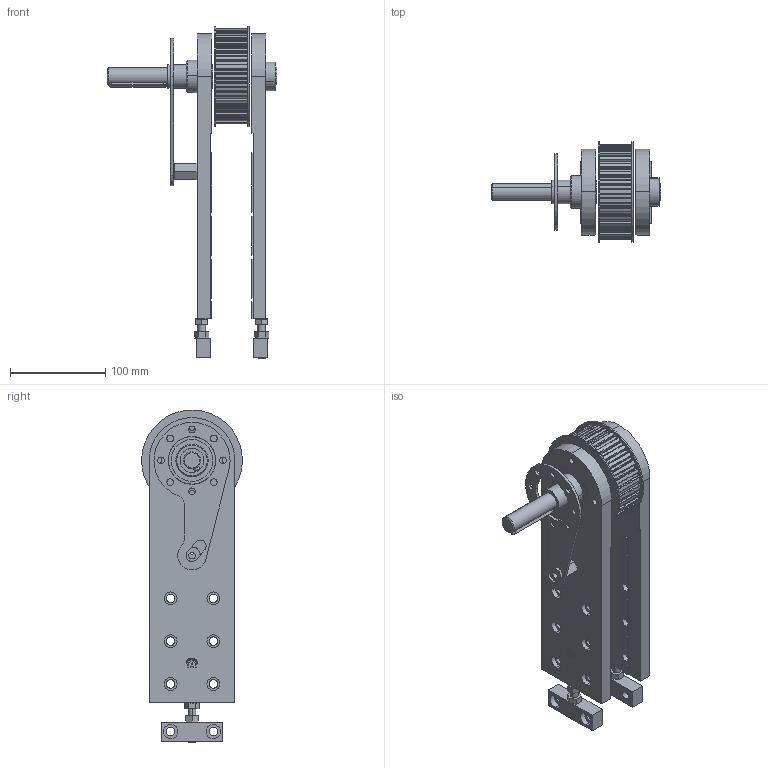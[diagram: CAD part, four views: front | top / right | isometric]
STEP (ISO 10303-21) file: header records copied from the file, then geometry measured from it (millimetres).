
FILE_DESCRIPTION (( 'STEP AP203' ), '1' );
FILE_NAME ('084.095.KDT.44.032.STEP', '2017-04-03T07:56:55', ( 'Localadmin' ), ( 'Microsoft' ), 'SwSTEP 2.0', 'SolidWorks 2016', '' );
FILE_SCHEMA (( 'CONFIG_CONTROL_DESIGN' ));
Length unit declared in the file: millimetre
Products named in the file (1): 084.095.KDT.44.032
Bounding box: 178.5 x 105.98 x 348.99 mm (x, y, z)
Surface area: 209246.7 mm2 (no closed solid volume)
Topology: 0 solids, 19 shells, 603 faces, 1889 edges, 1299 vertices
Faces by surface type: cylinder 316, plane 244, bspline 21, cone 18, sphere 4
Entity records: 22003 total; most frequent: CARTESIAN_POINT 4751, DIRECTION 3672, ORIENTED_EDGE 3488, EDGE_CURVE 1880, AXIS2_PLACEMENT_3D 1355, VERTEX_POINT 1294, VECTOR 962, LINE 962
